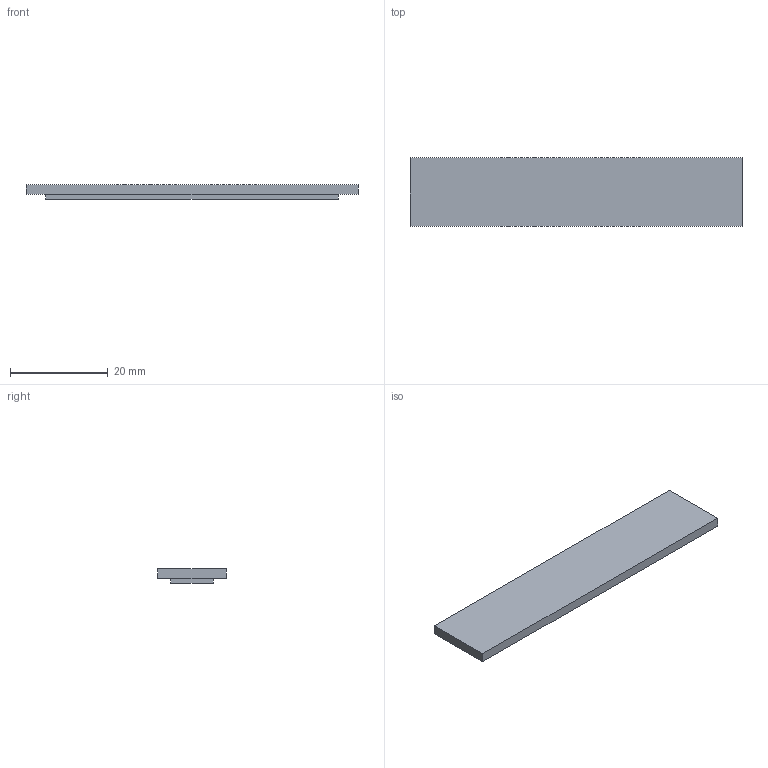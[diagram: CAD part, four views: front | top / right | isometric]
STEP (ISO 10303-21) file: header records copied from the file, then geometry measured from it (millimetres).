
FILE_DESCRIPTION(('Open CASCADE Model'),'2;1');
FILE_NAME('Open CASCADE Shape Model','2026-09-20T05:39:32',('Author'),( 'Open CASCADE'),'Open CASCADE STEP processor 7.9','Open CASCADE 7.9' ,'Unknown');
FILE_SCHEMA(('AUTOMOTIVE_DESIGN { 1 0 10303 214 1 1 1 1 }'));
Length unit declared in the file: millimetre
Products named in the file (1): Open CASCADE STEP translator 7.9 13
Bounding box: 68 x 14 x 3 mm (x, y, z)
Volume: 2432 mm3; surface area: 2369.6 mm2
Topology: 1 solids, 1 shells, 11 faces, 24 edges, 16 vertices
Faces by surface type: plane 11
Entity records: 620 total; most frequent: CARTESIAN_POINT 100, DIRECTION 96, LINE 72, VECTOR 72, ORIENTED_EDGE 48, PCURVE 48, DEFINITIONAL_REPRESENTATION 48, EDGE_CURVE 24
